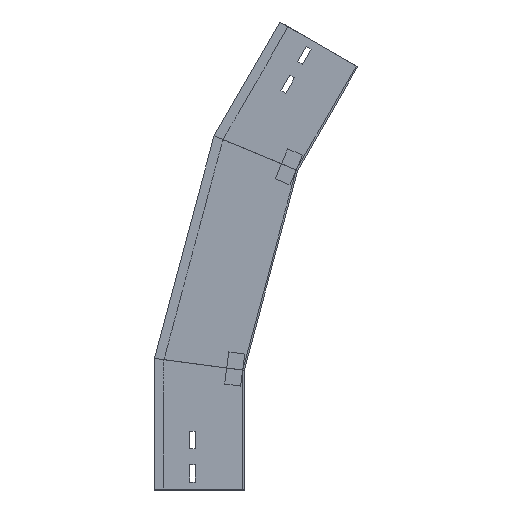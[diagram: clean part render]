
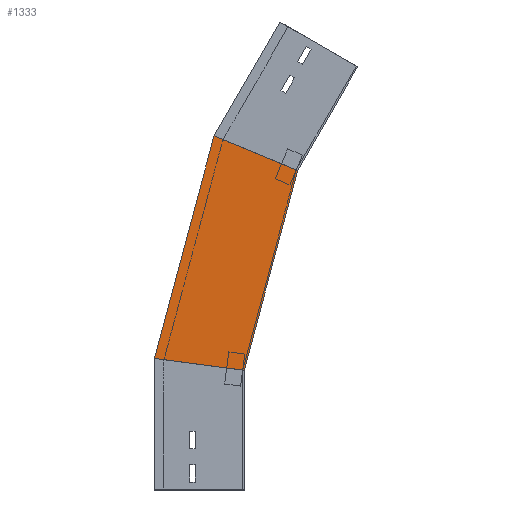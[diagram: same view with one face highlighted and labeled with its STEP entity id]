
A CAD part, left-side view. The second image highlights one B-rep face of the part: STEP entity #1333.
In plain terms, the highlighted planar face has unit normal (-1, 0, 0) as drawn and (1, 0, 0) by its records, which use the part's own axes.
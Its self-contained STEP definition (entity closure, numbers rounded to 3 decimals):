
#33 = LINE ( 'NONE', #1429, #327 ) ;
#70 = PLANE ( 'NONE',  #1346 ) ;
#105 = ORIENTED_EDGE ( 'NONE', *, *, #241, .F. ) ;
#134 = VECTOR ( 'NONE', #1177, 1000. ) ;
#169 = DIRECTION ( 'NONE',  ( 0., 0., -1. ) ) ;
#182 = FACE_OUTER_BOUND ( 'NONE', #319, .T. ) ;
#217 = ORIENTED_EDGE ( 'NONE', *, *, #1489, .T. ) ;
#241 = EDGE_CURVE ( 'NONE', #1388, #337, #1479, .T. ) ;
#265 = CARTESIAN_POINT ( 'NONE',  ( 0., 0., 150. ) ) ;
#319 = EDGE_LOOP ( 'NONE', ( #1029, #217, #105, #1484 ) ) ;
#325 = LINE ( 'NONE', #1251, #921 ) ;
#327 = VECTOR ( 'NONE', #487, 1000. ) ;
#337 = VERTEX_POINT ( 'NONE', #1367 ) ;
#447 = CARTESIAN_POINT ( 'NONE',  ( 0., 112.909, 163.284 ) ) ;
#487 = DIRECTION ( 'NONE',  ( 0., -0.924, -0.383 ) ) ;
#655 = CARTESIAN_POINT ( 'NONE',  ( 0., 112.5, 164.811 ) ) ;
#684 = DIRECTION ( 'NONE',  ( 0., -0.991, -0.131 ) ) ;
#760 = VERTEX_POINT ( 'NONE', #1190 ) ;
#765 = DIRECTION ( 'NONE',  ( 0., -0.259, 0.966 ) ) ;
#921 = VECTOR ( 'NONE', #684, 1000. ) ;
#973 = VERTEX_POINT ( 'NONE', #655 ) ;
#1008 = CARTESIAN_POINT ( 'NONE',  ( 0., 4.243, 134.167 ) ) ;
#1014 = DIRECTION ( 'NONE',  ( 1., 0., 0. ) ) ;
#1029 = ORIENTED_EDGE ( 'NONE', *, *, #1195, .T. ) ;
#1039 = EDGE_CURVE ( 'NONE', #973, #1388, #325, .T. ) ;
#1046 = LINE ( 'NONE', #447, #134 ) ;
#1177 = DIRECTION ( 'NONE',  ( 0., -0.259, 0.966 ) ) ;
#1190 = CARTESIAN_POINT ( 'NONE',  ( 0., 37.799, 443.598 ) ) ;
#1195 = EDGE_CURVE ( 'NONE', #973, #760, #1046, .T. ) ;
#1222 = CARTESIAN_POINT ( 'NONE',  ( 0., 4.243, 134.167 ) ) ;
#1251 = CARTESIAN_POINT ( 'NONE',  ( 0., -19.411, 147.444 ) ) ;
#1333 = ADVANCED_FACE ( 'NONE', ( #182 ), #70, .T. ) ;
#1346 = AXIS2_PLACEMENT_3D ( 'NONE', #1222, #1014, #169 ) ;
#1367 = CARTESIAN_POINT ( 'NONE',  ( 0., -67.034, 400.175 ) ) ;
#1378 = VECTOR ( 'NONE', #765, 1000. ) ;
#1388 = VERTEX_POINT ( 'NONE', #265 ) ;
#1429 = CARTESIAN_POINT ( 'NONE',  ( 0., -100.244, 386.419 ) ) ;
#1479 = LINE ( 'NONE', #1008, #1378 ) ;
#1484 = ORIENTED_EDGE ( 'NONE', *, *, #1039, .F. ) ;
#1489 = EDGE_CURVE ( 'NONE', #760, #337, #33, .T. ) ;
